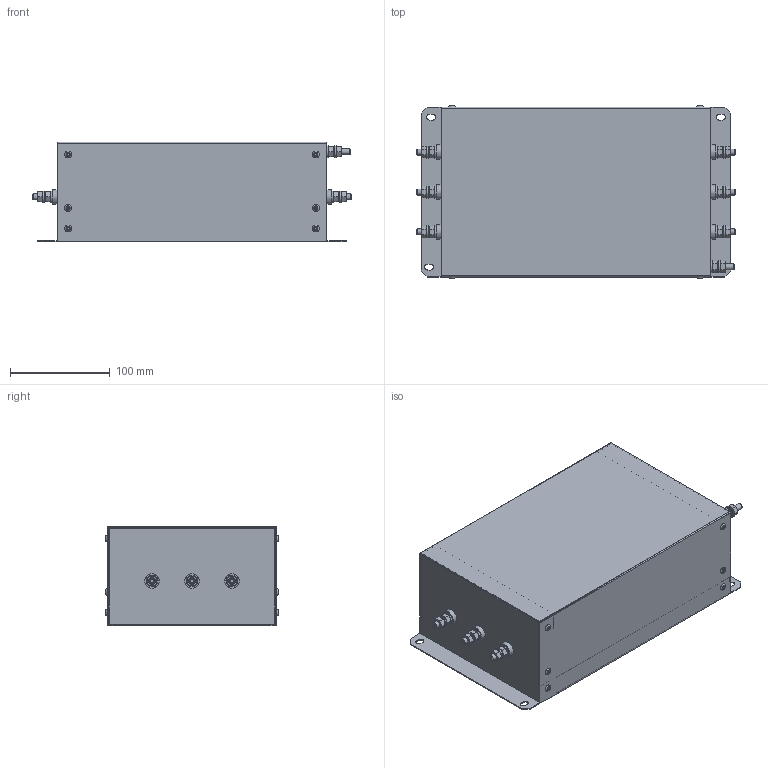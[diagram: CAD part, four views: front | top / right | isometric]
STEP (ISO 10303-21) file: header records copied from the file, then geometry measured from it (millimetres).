
FILE_DESCRIPTION(('STEP AP203'), '1');
FILE_NAME('ÝÌÑ ôèëüòð - IEF-45_92-4', '', ('UNSPECIFIED'), ('UNSPECIFIED'), 'C3D Converter', 'C3D Toolkit', '');
FILE_SCHEMA(('CONFIG_CONTROL_DESIGN'));
Length unit declared in the file: millimetre
Products named in the file (20): IEF-45_92-4; DIN 976; DIN 125 (A); DIN 934; DIN 127 (A); DIN 7337
Assembly tree (78 placements, depth 4):
  IEF-45_92-4
    IEF-45_92-4
    IEF-45_92-4
    IEF-45_92-4
      IEF-45_92-4
      IEF-45_92-4  x6
      DIN 976  x3
        (unnamed)
      DIN 125 (A)  x6
        (unnamed)
      DIN 934  x6
        (unnamed)
      DIN 127 (A)  x3
        (unnamed)
    IEF-45_92-4
      IEF-45_92-4
      IEF-45_92-4  x6
      DIN 976  x3
        (unnamed)
      DIN 125 (A)  x8
        (unnamed)
      DIN 127 (A)  x4
        (unnamed)
      DIN 976
        (unnamed)
      DIN 934  x8
        (unnamed)
    DIN 7337  x12
      (unnamed)
Bounding box: 320 x 172.6 x 100 mm (x, y, z)
Volume: 227763.9 mm3; surface area: 438588.1 mm2
Topology: 70 solids, 70 shells, 778 faces, 1552 edges, 938 vertices
Faces by surface type: plane 366, cone 210, cylinder 170, torus 24, bspline 8
Full cylindrical faces by diameter (mm): 2.1 x12, 3.2 x12, 3.5 x24, 4.917 x14, 6 x20, 6.4 x14, 8 x6, 12 x14, 14.6 x12
Entity records: 10195 total; most frequent: CARTESIAN_POINT 2119, DIRECTION 1204, ORIENTED_EDGE 968, EDGE_CURVE 484, AXIS2_PLACEMENT_3D 455, EDGE_LOOP 360, VERTEX_POINT 322, LINE 294
